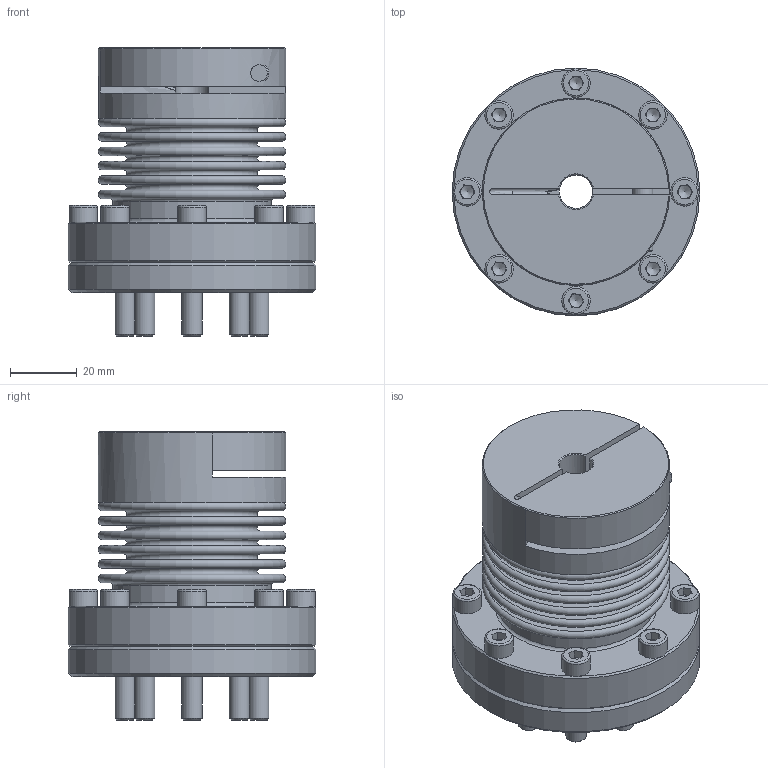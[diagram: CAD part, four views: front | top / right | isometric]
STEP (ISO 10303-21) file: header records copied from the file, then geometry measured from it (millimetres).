
FILE_DESCRIPTION( ( 'Unknown' ), '1' );
FILE_NAME( 'C:/Users/skarpstein/Desktop/KB4F/KB4F-30-69.stp', 'Unknown', ( 'Unknown' ), ( 'Unknown' ), 'PSStep 16.0.42', 'Unknown', ' ' );
FILE_SCHEMA( ( 'AUTOMOTIVE_DESIGN { 1 0 10303 214 1 1 1 1 }' ) );
Length unit declared in the file: millimetre
Products named in the file (8): Assem1; KN30C_Standard; Socket Head Cap Screw_DIN_DIN 912 M5 x 16 --- 16N; ISO 4017 - M6 x 25-N; Flansch A40-F30; Kupplungsflansch F30; ISO EN DIN 4762 M6x25; BL30_Standard_0
Assembly tree (21 placements, depth 2):
  Assem1
    KN30C_Standard
    Socket Head Cap Screw_DIN_DIN 912 M5 x 16 --- 16N  x8
    ISO 4017 - M6 x 25-N  x8
    Flansch A40-F30
    Kupplungsflansch F30
    ISO EN DIN 4762 M6x25
    BL30_Standard_0
Bounding box: 74 x 74 x 86.05 mm (x, y, z)
Volume: 127841.6 mm3; surface area: 86007.4 mm2
Topology: 21 solids, 21 shells, 524 faces, 1117 edges, 684 vertices
Faces by surface type: plane 298, cone 93, cylinder 80, torus 53
Full cylindrical faces by diameter (mm): 4.134 x8, 5 x10, 5.5 x8, 6 x10, 6.4 x1, 6.6 x8, 8.5 x8, 10 x10, 11 x1, 28 x1, 32 x1, 45.7 x1, 46.5 x2, 47.3 x2, 50 x1, 55 x2, 56 x1, 74 x2
Entity records: 6973 total; most frequent: CARTESIAN_POINT 1071, DIRECTION 921, ORIENTED_EDGE 608, AXIS2_PLACEMENT_3D 424, EDGE_LOOP 391, EDGE_CURVE 304, FACE_OUTER_BOUND 281, VERTEX_POINT 260
